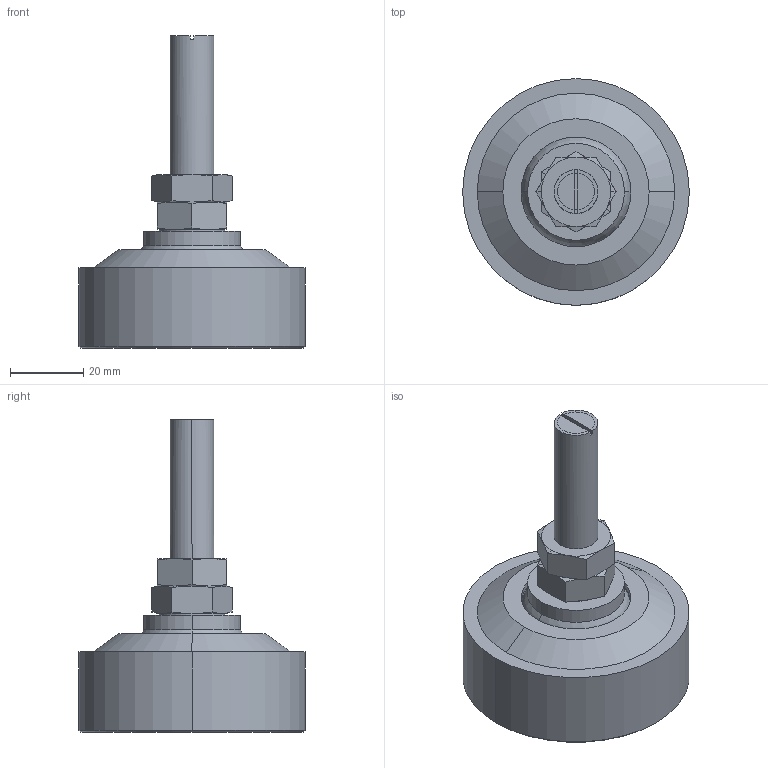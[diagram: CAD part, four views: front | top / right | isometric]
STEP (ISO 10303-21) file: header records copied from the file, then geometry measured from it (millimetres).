
FILE_DESCRIPTION((''),'1');
FILE_NAME('LALAH_M12_zinc-plated.step','2021-12-06T11:50:36',(''),(''),'','','');
FILE_SCHEMA(('AUTOMOTIVE_DESIGN { 1 0 10303 214 1 1 1 1 }'));
Products named in the file (4): LALAH M12_zinc-plated; LALAH nut 01; LALAH part 02; LALAH base 01
Assembly tree (3 placements, depth 2):
  LALAH M12_zinc-plated
    LALAH nut 01
    LALAH part 02
    LALAH base 01
Bounding box: 62 x 62 x 85.5 mm (x, y, z)
Volume: 80077.9 mm3; surface area: 29779.7 mm2
Topology: 3 solids, 4 shells, 94 faces, 209 edges, 129 vertices
Faces by surface type: cone 40, plane 30, cylinder 22, torus 2
Entity records: 2680 total; most frequent: CARTESIAN_POINT 544, DIRECTION 456, ORIENTED_EDGE 406, EDGE_CURVE 209, AXIS2_PLACEMENT_3D 197, VERTEX_POINT 129, EDGE_LOOP 104, CIRCLE 99
